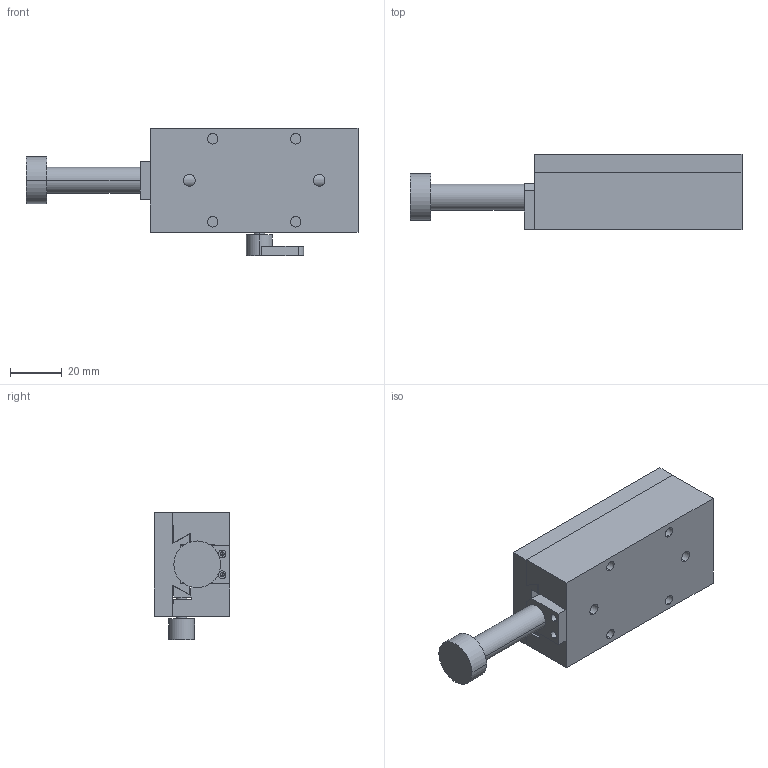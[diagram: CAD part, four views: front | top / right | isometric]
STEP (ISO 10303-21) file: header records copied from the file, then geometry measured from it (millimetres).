
FILE_DESCRIPTION (( 'STEP AP203' ), '1' );
FILE_NAME ('JD1-48S-L.STEP', '2019-01-31T07:44:17', ( 'Windows 餌辨濠' ), ( '' ), 'SwSTEP 2.0', 'SolidWorks 2018', '' );
FILE_SCHEMA (( 'CONFIG_CONTROL_DESIGN' ));
Length unit declared in the file: millimetre
Products named in the file (8): FB-JD48S-BK-C-01; FB-JD48S-NTB-01; FB-JD48S-SC-01; JD1-48S-L; FB-JD48S-SH-01; FB-JD48S-BD-01; FC-NB-10X17.5; FB-JD48S-BD-03
Assembly tree (7 placements, depth 2):
  JD1-48S-L
    FB-JD48S-BD-03
    FB-JD48S-BD-01
    FB-JD48S-BK-C-01
    FB-JD48S-SC-01
    FB-JD48S-SH-01
    FB-JD48S-NTB-01
    FC-NB-10X17.5
Bounding box: 128 x 29 x 49 mm (x, y, z)
Volume: 82978.4 mm3; surface area: 35300.8 mm2
Topology: 7 solids, 7 shells, 228 faces, 578 edges, 353 vertices
Faces by surface type: cylinder 107, plane 81, cone 40
Entity records: 7552 total; most frequent: DIRECTION 1246, CARTESIAN_POINT 1131, ORIENTED_EDGE 1080, EDGE_CURVE 540, AXIS2_PLACEMENT_3D 468, VERTEX_POINT 353, VECTOR 310, LINE 310
